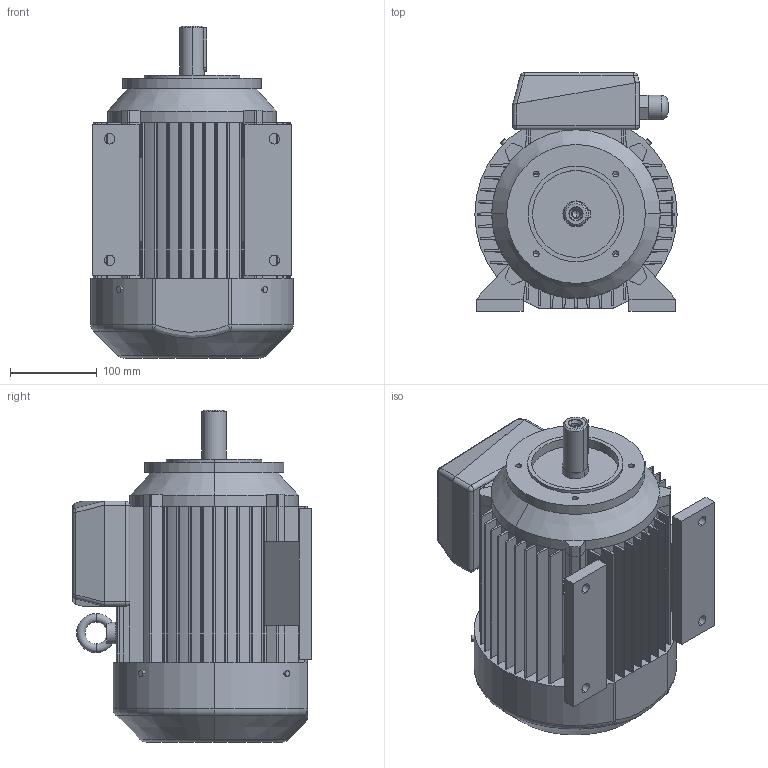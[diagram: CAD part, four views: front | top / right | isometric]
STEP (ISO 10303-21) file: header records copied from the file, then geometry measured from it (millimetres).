
FILE_DESCRIPTION (( 'STEP AP203' ), '1' );
FILE_NAME ('SLg 112M-B34-C2.STEP', '2010-04-14T09:57:37', ( 'INDUKTA' ), ( 'CANTONI MOTOR' ), 'SwSTEP 2.0', 'SolidWorks 2003064', '' );
FILE_SCHEMA (( 'CONFIG_CONTROL_DESIGN' ));
Length unit declared in the file: millimetre
Products named in the file (1): SLg 112M-B34-C2
Bounding box: 233 x 275 x 382.5 mm (x, y, z)
Volume: 12173969.9 mm3; surface area: 763868.9 mm2
Topology: 14 solids, 14 shells, 573 faces, 1528 edges, 975 vertices
Faces by surface type: plane 272, cylinder 213, bspline 43, cone 22, torus 13, sphere 10
Entity records: 21467 total; most frequent: CARTESIAN_POINT 7274, ORIENTED_EDGE 3016, DIRECTION 2868, EDGE_CURVE 1508, VERTEX_POINT 975, AXIS2_PLACEMENT_3D 968, LINE 932, VECTOR 932
